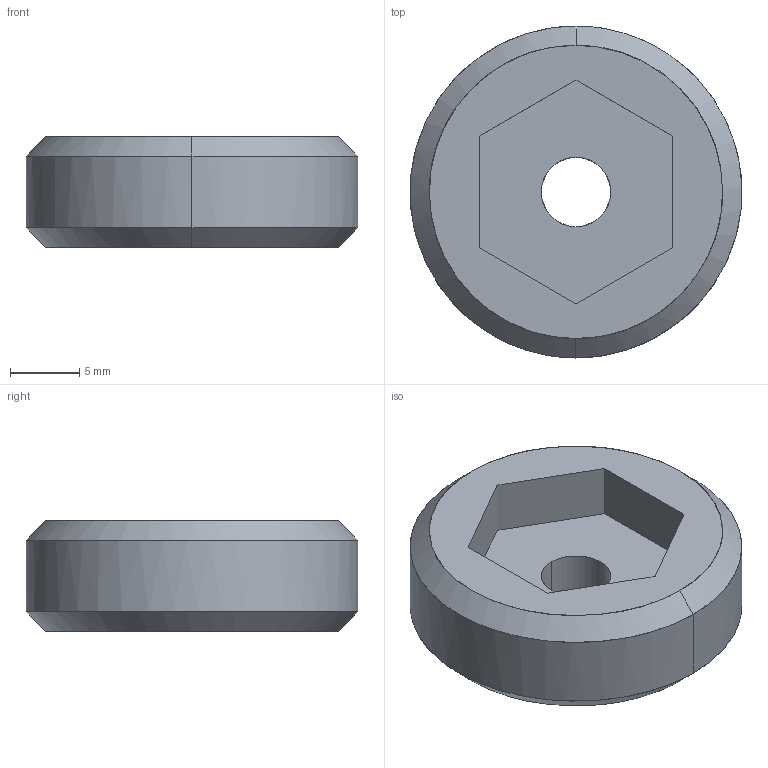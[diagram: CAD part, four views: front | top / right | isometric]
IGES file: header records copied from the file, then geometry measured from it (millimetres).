
Global section: file name: E:\UnigraphicsGraphicData\MISUMI_PRESS-PARTS\IGES\3d_mswsh24-8_00473_r00.igs; native system: NX V5.0; preprocessor: UGS NX IGES V5.0; author: MISUMI; date: 20110105.161527; units: millimetre
Bounding box: 23.98 x 24 x 8 mm (x, y, z)
Surface area: 1598.9 mm2 (no closed solid volume)
Topology: 0 solids, 0 shells, 17 faces, 100 edges, 100 vertices
Faces by surface type: bspline 17
